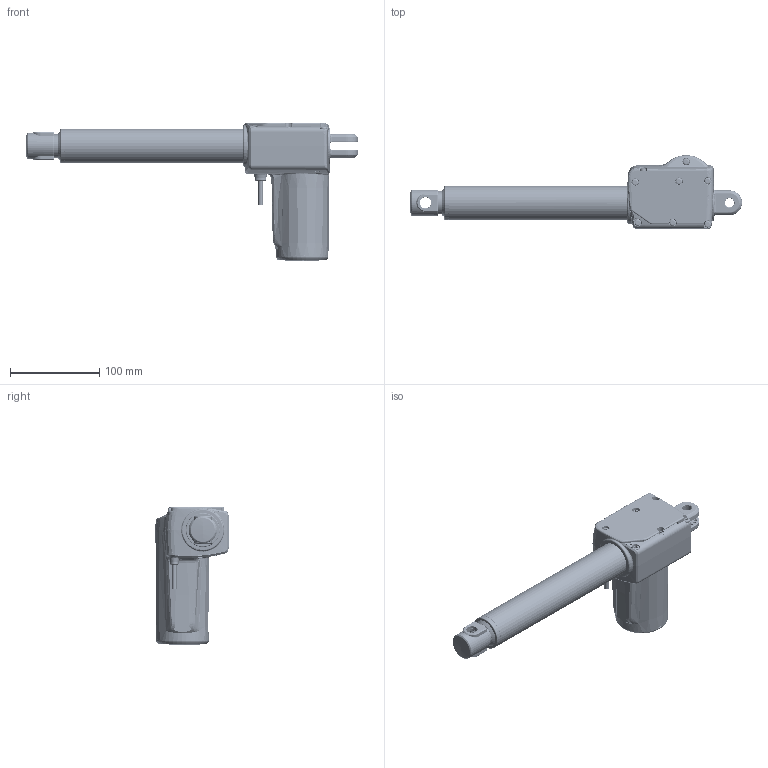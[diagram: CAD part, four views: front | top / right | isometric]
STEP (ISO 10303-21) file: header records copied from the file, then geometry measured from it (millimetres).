
FILE_DESCRIPTION (( 'STEP AP203' ), '1' );
FILE_NAME ('3D_TA50.step', '2023-09-19T09:32:22', ( '' ), ( '' ), 'SwSTEP 2.0', 'SolidWorks 2015', '' );
FILE_SCHEMA (( 'CONFIG_CONTROL_DESIGN' ));
Products named in the file (1): 3D_TA50
Bounding box: 371.26 x 82.42 x 155 mm (x, y, z)
Volume: 320056.3 mm3; surface area: 292990.4 mm2
Topology: 22 solids, 22 shells, 4669 faces, 12252 edges, 7637 vertices
Faces by surface type: plane 1494, cylinder 1358, cone 676, bspline 667, torus 444, sphere 30
Entity records: 192699 total; most frequent: CARTESIAN_POINT 87210, ORIENTED_EDGE 24430, DIRECTION 19760, EDGE_CURVE 12215, VERTEX_POINT 7633, AXIS2_PLACEMENT_3D 7619, EDGE_LOOP 4878, ADVANCED_FACE 4669
